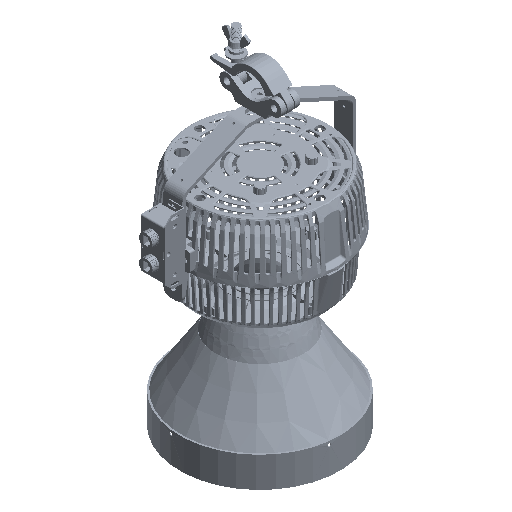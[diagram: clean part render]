
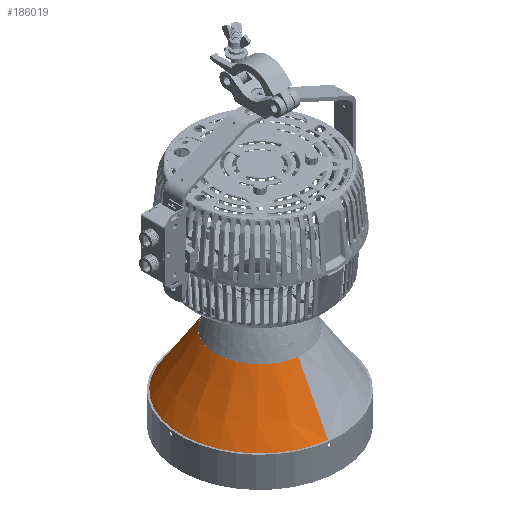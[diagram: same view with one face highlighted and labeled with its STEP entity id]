
A CAD part, isometric view. The second image highlights one B-rep face of the part: STEP entity #186019.
In plain terms, the highlighted conical face has half-angle 33 degrees and reference radius 123.852 mm.
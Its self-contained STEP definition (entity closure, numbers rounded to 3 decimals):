
#23642 = FACE_OUTER_BOUND ( 'NONE', #366647, .T. ) ;
#31087 = CARTESIAN_POINT ( 'NONE',  ( -123.852, 36.572, 0. ) ) ;
#50587 = EDGE_CURVE ( 'NONE', #294068, #81364, #149369, .T. ) ;
#69737 = CARTESIAN_POINT ( 'NONE',  ( 123.852, 36.572, 0. ) ) ;
#70007 = ORIENTED_EDGE ( 'NONE', *, *, #177585, .T. ) ;
#73072 = CARTESIAN_POINT ( 'NONE',  ( 0., -47.228, 0. ) ) ;
#78367 = CARTESIAN_POINT ( 'NONE',  ( -69.431, -47.228, 0. ) ) ;
#79916 = AXIS2_PLACEMENT_3D ( 'NONE', #73072, #303722, #271591 ) ;
#81364 = VERTEX_POINT ( 'NONE', #69737 ) ;
#83014 = CIRCLE ( 'NONE', #349382, 123.852 ) ;
#94848 = VERTEX_POINT ( 'NONE', #78367 ) ;
#98675 = EDGE_CURVE ( 'NONE', #94848, #223237, #305379, .T. ) ;
#102214 = CONICAL_SURFACE ( 'NONE', #319742, 123.852, 0.576 ) ;
#108773 = DIRECTION ( 'NONE',  ( 0., 1., 0. ) ) ;
#114361 = CARTESIAN_POINT ( 'NONE',  ( 0., 36.572, 0. ) ) ;
#119933 = ORIENTED_EDGE ( 'NONE', *, *, #50587, .T. ) ;
#120390 = CARTESIAN_POINT ( 'NONE',  ( 0., 36.572, 0. ) ) ;
#149369 = LINE ( 'NONE', #238150, #280286 ) ;
#173389 = DIRECTION ( 'NONE',  ( -1., 0., 0. ) ) ;
#174010 = VECTOR ( 'NONE', #273233, 1000. ) ;
#177585 = EDGE_CURVE ( 'NONE', #94848, #294068, #363326, .T. ) ;
#180822 = DIRECTION ( 'NONE',  ( 0., 1., 0. ) ) ;
#186019 = ADVANCED_FACE ( 'NONE', ( #23642 ), #102214, .T. ) ;
#223237 = VERTEX_POINT ( 'NONE', #31087 ) ;
#227771 = DIRECTION ( 'NONE',  ( -1., 0., 0. ) ) ;
#233498 = EDGE_CURVE ( 'NONE', #223237, #81364, #83014, .T. ) ;
#238150 = CARTESIAN_POINT ( 'NONE',  ( 123.852, 36.572, 0. ) ) ;
#242974 = CARTESIAN_POINT ( 'NONE',  ( -123.852, 36.572, 0. ) ) ;
#271591 = DIRECTION ( 'NONE',  ( -1., 0., 0. ) ) ;
#273233 = DIRECTION ( 'NONE',  ( -0.545, 0.839, 0. ) ) ;
#280286 = VECTOR ( 'NONE', #293065, 1000. ) ;
#293065 = DIRECTION ( 'NONE',  ( 0.545, 0.839, 0. ) ) ;
#294068 = VERTEX_POINT ( 'NONE', #365254 ) ;
#303722 = DIRECTION ( 'NONE',  ( 0., 1., 0. ) ) ;
#305379 = LINE ( 'NONE', #242974, #174010 ) ;
#315890 = ORIENTED_EDGE ( 'NONE', *, *, #233498, .F. ) ;
#319742 = AXIS2_PLACEMENT_3D ( 'NONE', #114361, #108773, #227771 ) ;
#335484 = ORIENTED_EDGE ( 'NONE', *, *, #98675, .F. ) ;
#349382 = AXIS2_PLACEMENT_3D ( 'NONE', #120390, #180822, #173389 ) ;
#363326 = CIRCLE ( 'NONE', #79916, 69.431 ) ;
#365254 = CARTESIAN_POINT ( 'NONE',  ( 69.431, -47.228, 0. ) ) ;
#366647 = EDGE_LOOP ( 'NONE', ( #70007, #119933, #315890, #335484 ) ) ;
